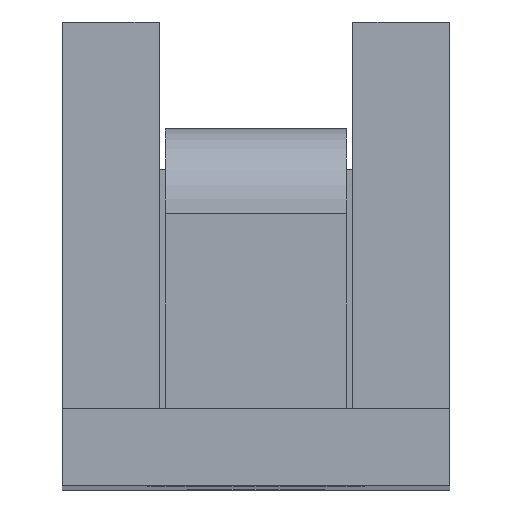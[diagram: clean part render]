
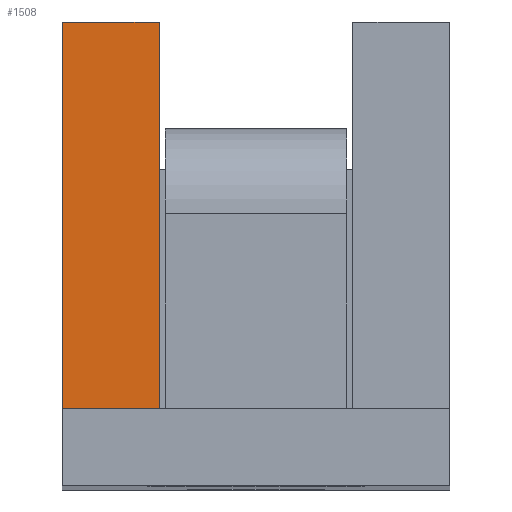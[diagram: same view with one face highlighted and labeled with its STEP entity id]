
A CAD part, top view. The second image highlights one B-rep face of the part: STEP entity #1508.
In plain terms, the highlighted planar face has unit normal (0, 0, 1).
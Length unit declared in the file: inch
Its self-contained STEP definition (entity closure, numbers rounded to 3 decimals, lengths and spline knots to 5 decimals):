
#16 = CARTESIAN_POINT ( 'NONE',  ( -0.25, 0.05, 1. ) ) ;
#21 = CARTESIAN_POINT ( 'NONE',  ( -0.25, 0.05, 1. ) ) ;
#27 = DIRECTION ( 'NONE',  ( 1., 0., 0. ) ) ;
#68 = CARTESIAN_POINT ( 'NONE',  ( -0.25, 0.55, 1. ) ) ;
#132 = CARTESIAN_POINT ( 'NONE',  ( -0.125, 0.55, 1. ) ) ;
#158 = VERTEX_POINT ( 'NONE', #132 ) ;
#222 = EDGE_CURVE ( 'NONE', #1277, #478, #1448, .T. ) ;
#248 = CARTESIAN_POINT ( 'NONE',  ( -0.25, 0.55, 1. ) ) ;
#269 = VECTOR ( 'NONE', #1190, 39.37008 ) ;
#319 = DIRECTION ( 'NONE',  ( 0., 1., 0. ) ) ;
#320 = ORIENTED_EDGE ( 'NONE', *, *, #601, .T. ) ;
#323 = VECTOR ( 'NONE', #1109, 39.37008 ) ;
#332 = CARTESIAN_POINT ( 'NONE',  ( -0.125, 0.05, 1. ) ) ;
#414 = CARTESIAN_POINT ( 'NONE',  ( -0.125, 0.55, 1. ) ) ;
#416 = EDGE_LOOP ( 'NONE', ( #320, #796, #1307, #1496 ) ) ;
#478 = VERTEX_POINT ( 'NONE', #332 ) ;
#535 = LINE ( 'NONE', #248, #323 ) ;
#601 = EDGE_CURVE ( 'NONE', #158, #1502, #799, .T. ) ;
#660 = DIRECTION ( 'NONE',  ( 0., 0., -1. ) ) ;
#665 = FACE_OUTER_BOUND ( 'NONE', #416, .T. ) ;
#667 = LINE ( 'NONE', #791, #1470 ) ;
#744 = VECTOR ( 'NONE', #27, 39.37008 ) ;
#784 = PLANE ( 'NONE',  #1472 ) ;
#791 = CARTESIAN_POINT ( 'NONE',  ( -0.125, 0.55, 1. ) ) ;
#796 = ORIENTED_EDGE ( 'NONE', *, *, #1343, .T. ) ;
#799 = LINE ( 'NONE', #1182, #269 ) ;
#986 = EDGE_CURVE ( 'NONE', #478, #158, #667, .T. ) ;
#1001 = DIRECTION ( 'NONE',  ( 0., 1., 0. ) ) ;
#1109 = DIRECTION ( 'NONE',  ( 0., -1., 0. ) ) ;
#1182 = CARTESIAN_POINT ( 'NONE',  ( -0.25, 0.55, 1. ) ) ;
#1190 = DIRECTION ( 'NONE',  ( -1., 0., 0. ) ) ;
#1277 = VERTEX_POINT ( 'NONE', #16 ) ;
#1307 = ORIENTED_EDGE ( 'NONE', *, *, #222, .T. ) ;
#1343 = EDGE_CURVE ( 'NONE', #1502, #1277, #535, .T. ) ;
#1448 = LINE ( 'NONE', #21, #744 ) ;
#1470 = VECTOR ( 'NONE', #319, 39.37008 ) ;
#1472 = AXIS2_PLACEMENT_3D ( 'NONE', #414, #660, #1001 ) ;
#1496 = ORIENTED_EDGE ( 'NONE', *, *, #986, .T. ) ;
#1502 = VERTEX_POINT ( 'NONE', #68 ) ;
#1508 = ADVANCED_FACE ( 'NONE', ( #665 ), #784, .F. ) ;
